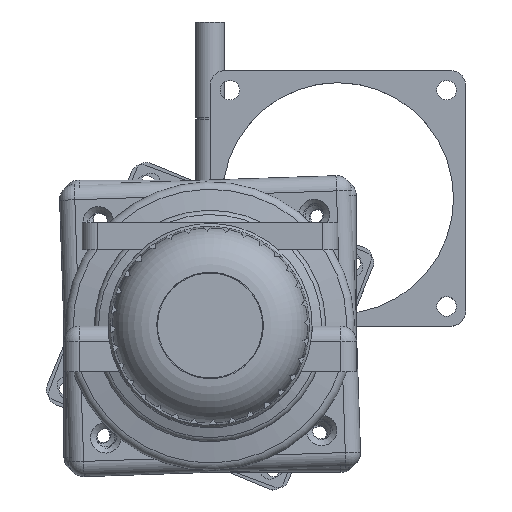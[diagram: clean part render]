
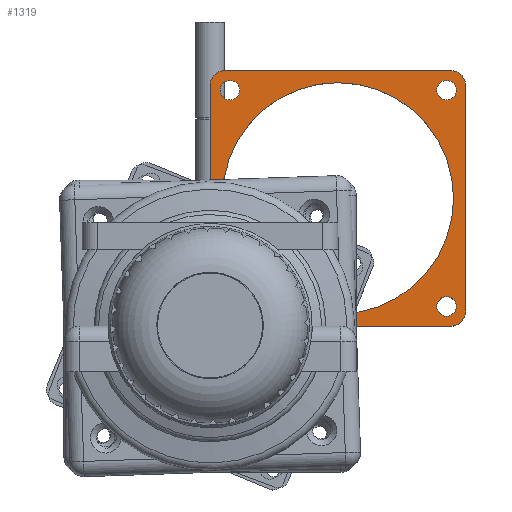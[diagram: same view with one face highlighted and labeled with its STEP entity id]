
A CAD part, top view. The second image highlights one B-rep face of the part: STEP entity #1319.
In plain terms, the highlighted planar face has unit normal (0, 0, 1).
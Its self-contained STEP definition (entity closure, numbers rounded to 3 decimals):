
#1319 = ADVANCED_FACE( '', ( #3272, #3273, #3274, #3275, #3276, #3277 ), #3278, .T. );
#3272 = FACE_BOUND( '', #8349, .T. );
#3273 = FACE_BOUND( '', #8350, .T. );
#3274 = FACE_OUTER_BOUND( '', #8351, .T. );
#3275 = FACE_BOUND( '', #8352, .T. );
#3276 = FACE_BOUND( '', #8353, .T. );
#3277 = FACE_BOUND( '', #8354, .T. );
#3278 = PLANE( '', #8355 );
#8349 = EDGE_LOOP( '', ( #14341 ) );
#8350 = EDGE_LOOP( '', ( #14342 ) );
#8351 = EDGE_LOOP( '', ( #14343, #14344, #14345, #14346, #14347, #14348, #14349, #14350 ) );
#8352 = EDGE_LOOP( '', ( #14351 ) );
#8353 = EDGE_LOOP( '', ( #14352 ) );
#8354 = EDGE_LOOP( '', ( #14353 ) );
#8355 = AXIS2_PLACEMENT_3D( '', #14354, #14355, #14356 );
#14341 = ORIENTED_EDGE( '', *, *, #20598, .T. );
#14342 = ORIENTED_EDGE( '', *, *, #19842, .T. );
#14343 = ORIENTED_EDGE( '', *, *, #20599, .T. );
#14344 = ORIENTED_EDGE( '', *, *, #20600, .T. );
#14345 = ORIENTED_EDGE( '', *, *, #20601, .T. );
#14346 = ORIENTED_EDGE( '', *, *, #20332, .T. );
#14347 = ORIENTED_EDGE( '', *, *, #20602, .T. );
#14348 = ORIENTED_EDGE( '', *, *, #20603, .T. );
#14349 = ORIENTED_EDGE( '', *, *, #20604, .T. );
#14350 = ORIENTED_EDGE( '', *, *, #20605, .T. );
#14351 = ORIENTED_EDGE( '', *, *, #20606, .T. );
#14352 = ORIENTED_EDGE( '', *, *, #20607, .T. );
#14353 = ORIENTED_EDGE( '', *, *, #20608, .T. );
#14354 = CARTESIAN_POINT( '', ( 0., 0., 4.5 ) );
#14355 = DIRECTION( '', ( 0., 0., 1. ) );
#14356 = DIRECTION( '', ( 1., 0., 0. ) );
#19842 = EDGE_CURVE( '', #22574, #22574, #22575, .T. );
#20332 = EDGE_CURVE( '', #23440, #23441, #23442, .T. );
#20598 = EDGE_CURVE( '', #23889, #23889, #23890, .T. );
#20599 = EDGE_CURVE( '', #23891, #23892, #23893, .T. );
#20600 = EDGE_CURVE( '', #23892, #23894, #23895, .T. );
#20601 = EDGE_CURVE( '', #23894, #23440, #23896, .T. );
#20602 = EDGE_CURVE( '', #23441, #23897, #23898, .T. );
#20603 = EDGE_CURVE( '', #23897, #23899, #23900, .T. );
#20604 = EDGE_CURVE( '', #23899, #23901, #23902, .T. );
#20605 = EDGE_CURVE( '', #23901, #23891, #23903, .T. );
#20606 = EDGE_CURVE( '', #23904, #23904, #23905, .T. );
#20607 = EDGE_CURVE( '', #23906, #23906, #23907, .T. );
#20608 = EDGE_CURVE( '', #23908, #23908, #23909, .T. );
#22574 = VERTEX_POINT( '', #26629 );
#22575 = CIRCLE( '', #26630, 1.6 );
#23440 = VERTEX_POINT( '', #30754 );
#23441 = VERTEX_POINT( '', #30755 );
#23442 = CIRCLE( '', #30756, 2.5 );
#23889 = VERTEX_POINT( '', #31463 );
#23890 = CIRCLE( '', #31464, 1.6 );
#23891 = VERTEX_POINT( '', #31465 );
#23892 = VERTEX_POINT( '', #31466 );
#23893 = LINE( '', #31467, #31468 );
#23894 = VERTEX_POINT( '', #31469 );
#23895 = CIRCLE( '', #31470, 2.5 );
#23896 = LINE( '', #31471, #31472 );
#23897 = VERTEX_POINT( '', #31473 );
#23898 = LINE( '', #31474, #31475 );
#23899 = VERTEX_POINT( '', #31476 );
#23900 = CIRCLE( '', #31477, 2.5 );
#23901 = VERTEX_POINT( '', #31478 );
#23902 = LINE( '', #31479, #31480 );
#23903 = CIRCLE( '', #31481, 2.5 );
#23904 = VERTEX_POINT( '', #31482 );
#23905 = CIRCLE( '', #31483, 19. );
#23906 = VERTEX_POINT( '', #31484 );
#23907 = CIRCLE( '', #31485, 1.6 );
#23908 = VERTEX_POINT( '', #31486 );
#23909 = CIRCLE( '', #31487, 1.6 );
#26629 = CARTESIAN_POINT( '', ( 3.25, 4.835, 4.5 ) );
#26630 = AXIS2_PLACEMENT_3D( '', #35940, #35941, #35942 );
#30754 = CARTESIAN_POINT( '', ( 2.5, 42., 4.5 ) );
#30755 = CARTESIAN_POINT( '', ( 0., 39.5, 4.5 ) );
#30756 = AXIS2_PLACEMENT_3D( '', #36497, #36498, #36499 );
#31463 = CARTESIAN_POINT( '', ( 38.851, 40.365, 4.5 ) );
#31464 = AXIS2_PLACEMENT_3D( '', #36824, #36825, #36826 );
#31465 = CARTESIAN_POINT( '', ( 42., 2.5, 4.5 ) );
#31466 = CARTESIAN_POINT( '', ( 42., 39.5, 4.5 ) );
#31467 = CARTESIAN_POINT( '', ( 42., 0., 4.5 ) );
#31468 = VECTOR( '', #36827, 1000. );
#31469 = CARTESIAN_POINT( '', ( 39.5, 42., 4.5 ) );
#31470 = AXIS2_PLACEMENT_3D( '', #36828, #36829, #36830 );
#31471 = CARTESIAN_POINT( '', ( 42., 42., 4.5 ) );
#31472 = VECTOR( '', #36831, 1000. );
#31473 = CARTESIAN_POINT( '', ( 0., 2.5, 4.5 ) );
#31474 = CARTESIAN_POINT( '', ( 0., 42., 4.5 ) );
#31475 = VECTOR( '', #36832, 1000. );
#31476 = CARTESIAN_POINT( '', ( 2.5, 0., 4.5 ) );
#31477 = AXIS2_PLACEMENT_3D( '', #36833, #36834, #36835 );
#31478 = CARTESIAN_POINT( '', ( 39.5, 0., 4.5 ) );
#31479 = CARTESIAN_POINT( '', ( 0., 0., 4.5 ) );
#31480 = VECTOR( '', #36836, 1000. );
#31481 = AXIS2_PLACEMENT_3D( '', #36837, #36838, #36839 );
#31482 = CARTESIAN_POINT( '', ( 21., 40., 4.5 ) );
#31483 = AXIS2_PLACEMENT_3D( '', #36840, #36841, #36842 );
#31484 = CARTESIAN_POINT( '', ( 3.25, 40.365, 4.5 ) );
#31485 = AXIS2_PLACEMENT_3D( '', #36843, #36844, #36845 );
#31486 = CARTESIAN_POINT( '', ( 38.851, 4.85, 4.5 ) );
#31487 = AXIS2_PLACEMENT_3D( '', #36846, #36847, #36848 );
#35940 = CARTESIAN_POINT( '', ( 3.25, 3.235, 4.5 ) );
#35941 = DIRECTION( '', ( 0., 0., -1. ) );
#35942 = DIRECTION( '', ( 0., 1., 0. ) );
#36497 = CARTESIAN_POINT( '', ( 2.5, 39.5, 4.5 ) );
#36498 = DIRECTION( '', ( 0., 0., 1. ) );
#36499 = DIRECTION( '', ( 1., 0., 0. ) );
#36824 = CARTESIAN_POINT( '', ( 38.851, 38.765, 4.5 ) );
#36825 = DIRECTION( '', ( 0., 0., -1. ) );
#36826 = DIRECTION( '', ( 0., 1., 0. ) );
#36827 = DIRECTION( '', ( 0., 1., 0. ) );
#36828 = CARTESIAN_POINT( '', ( 39.5, 39.5, 4.5 ) );
#36829 = DIRECTION( '', ( 0., 0., 1. ) );
#36830 = DIRECTION( '', ( 1., 0., 0. ) );
#36831 = DIRECTION( '', ( -1., 0., 0. ) );
#36832 = DIRECTION( '', ( 0., -1., 0. ) );
#36833 = CARTESIAN_POINT( '', ( 2.5, 2.5, 4.5 ) );
#36834 = DIRECTION( '', ( 0., 0., 1. ) );
#36835 = DIRECTION( '', ( 1., 0., 0. ) );
#36836 = DIRECTION( '', ( 1., 0., 0. ) );
#36837 = CARTESIAN_POINT( '', ( 39.5, 2.5, 4.5 ) );
#36838 = DIRECTION( '', ( 0., 0., 1. ) );
#36839 = DIRECTION( '', ( 1., 0., 0. ) );
#36840 = CARTESIAN_POINT( '', ( 21., 21., 4.5 ) );
#36841 = DIRECTION( '', ( 0., 0., -1. ) );
#36842 = DIRECTION( '', ( 0., 1., 0. ) );
#36843 = CARTESIAN_POINT( '', ( 3.25, 38.765, 4.5 ) );
#36844 = DIRECTION( '', ( 0., 0., -1. ) );
#36845 = DIRECTION( '', ( 0., 1., 0. ) );
#36846 = CARTESIAN_POINT( '', ( 38.851, 3.25, 4.5 ) );
#36847 = DIRECTION( '', ( 0., 0., -1. ) );
#36848 = DIRECTION( '', ( 0., 1., 0. ) );
